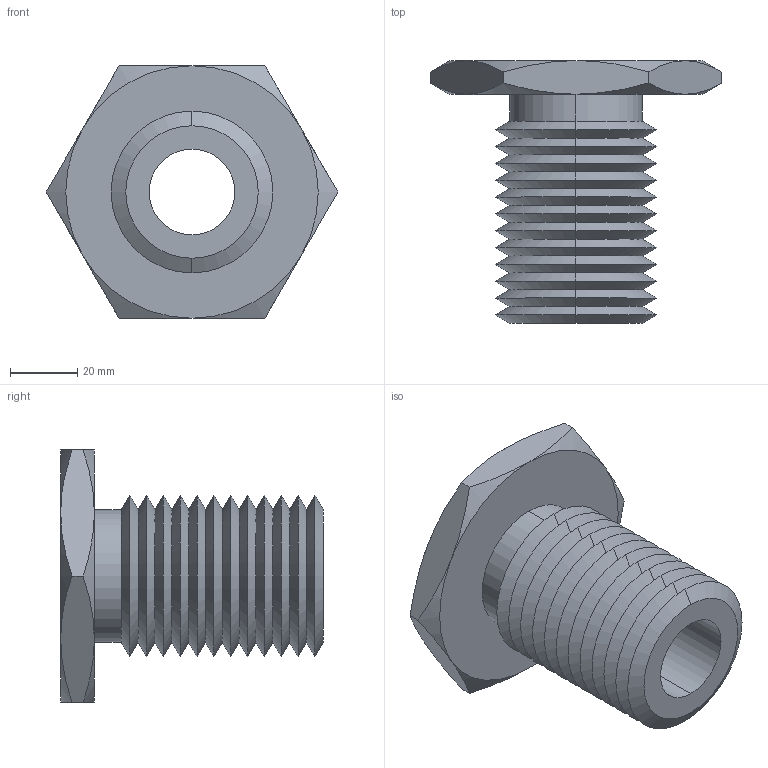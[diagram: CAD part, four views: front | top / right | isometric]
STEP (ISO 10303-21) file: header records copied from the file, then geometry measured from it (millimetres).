
FILE_DESCRIPTION (( 'STEP AP203' ), '1' );
FILE_NAME ('63302.W0048_1,00 UNC-8.step', '2013-12-08T11:19:39', ( 'User' ), ( '' ), 'SwSTEP 2.0', 'SolidWorks 2009', '' );
FILE_SCHEMA (( 'CONFIG_CONTROL_DESIGN' ));
Length unit declared in the file: millimetre
Products named in the file (1): 63302.W0048_1,00 UNC-8
Bounding box: 86.6 x 78 x 75 mm (x, y, z)
Volume: 107725.1 mm3; surface area: 34411.5 mm2
Topology: 1 solids, 1 shells, 75 faces, 154 edges, 82 vertices
Faces by surface type: cone 62, plane 9, cylinder 4
Entity records: 2139 total; most frequent: CARTESIAN_POINT 496, DIRECTION 352, ORIENTED_EDGE 308, EDGE_CURVE 154, AXIS2_PLACEMENT_3D 146, VERTEX_POINT 82, EDGE_LOOP 78, ADVANCED_FACE 75
